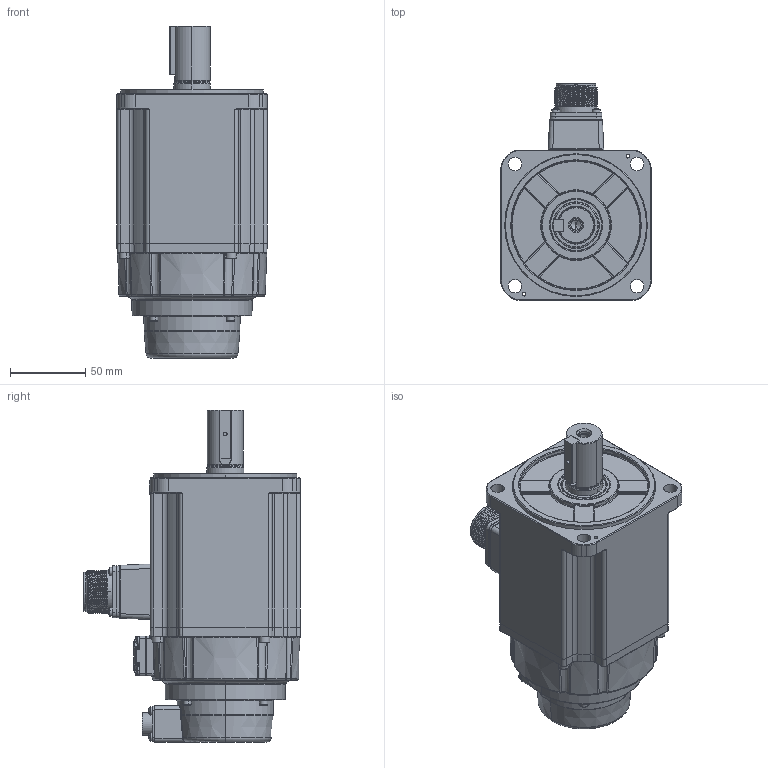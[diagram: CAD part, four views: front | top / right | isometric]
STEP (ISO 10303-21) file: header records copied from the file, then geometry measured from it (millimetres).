
FILE_DESCRIPTION (( 'STEP AP214' ), '1' );
FILE_NAME ('RSK1-S-100-1.5kw-B.STEP', '2024-08-22T06:47:04', ( '' ), ( '' ), 'SwSTEP 2.0', 'SolidWorks 2020', '' );
FILE_SCHEMA (( 'AUTOMOTIVE_DESIGN' ));
Length unit declared in the file: millimetre
Products named in the file (15): 蚐猾_TC25x35x5; 4140000005_电机内部编码器线_7x26AWG(0.1m-CMV1-10芯螺纹插座_GACJ3045); 内六角圆柱头和平垫圈组合螺钉_M3x16; 内六角圆柱头螺钉_M4x16; RSK1-S-100-1.5kw-B; 100-S-24粣噤; 100-惕掅綴傷裔; 130雄薯瑤脣價釱; ﾊｮﾗﾖｲﾛﾅﾌﾍｷﾗﾔｼｷﾂﾝｶ､_M3x8; す瑩_B8x7x32; 130梓袧綴裔; 惕掅雄薯瑤脣; 100-S-1.5kw儂褲; 坋趼羞攫芛蹟隊_M3x30; 130秶雄ん盄揤裔
Assembly tree (30 placements, depth 2):
  RSK1-S-100-1.5kw-B
    100-S-1.5kw儂褲
    100-惕掅綴傷裔
    坋趼羞攫芛蹟隊_M3x30  x8
    130雄薯瑤脣價釱
    惕掅雄薯瑤脣
    内六角圆柱头螺钉_M4x16  x4
    130梓袧綴裔
    4140000005_电机内部编码器线_7x26AWG(0.1m-CMV1-10芯螺纹插座_GACJ3045)
    ﾊｮﾗﾖｲﾛﾅﾌﾍｷﾗﾔｼｷﾂﾝｶ､_M3x8  x4
    内六角圆柱头和平垫圈组合螺钉_M3x16  x4
    100-S-24粣噤
    す瑩_B8x7x32
    蚐猾_TC25x35x5
    130秶雄ん盄揤裔
Bounding box: 100 x 144.4 x 221 mm (x, y, z)
Volume: 1380347.9 mm3; surface area: 154001.9 mm2
Topology: 33 solids, 35 shells, 3146 faces, 7763 edges, 4844 vertices
Faces by surface type: plane 1461, cylinder 769, cone 323, torus 269, bspline 248, sphere 76
Entity records: 109047 total; most frequent: CARTESIAN_POINT 28905, ORIENTED_EDGE 13310, DIRECTION 13208, EDGE_CURVE 6655, AXIS2_PLACEMENT_3D 4729, VERTEX_POINT 4170, VECTOR 3750, LINE 3750
